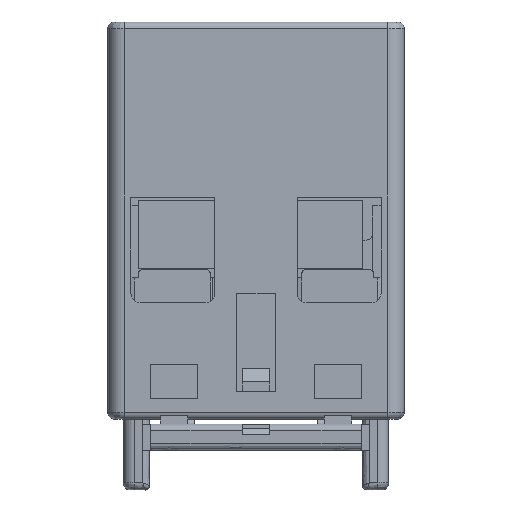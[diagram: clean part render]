
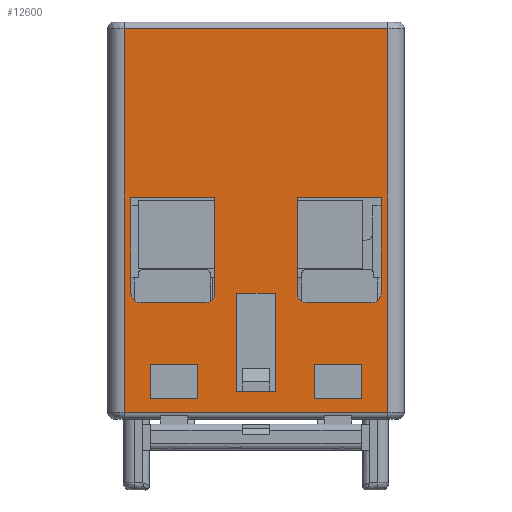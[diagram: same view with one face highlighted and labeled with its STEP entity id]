
A CAD part, top view. The second image highlights one B-rep face of the part: STEP entity #12600.
In plain terms, the highlighted free-form (B-spline) face has degree [1, 1] with [2, 2] control points.
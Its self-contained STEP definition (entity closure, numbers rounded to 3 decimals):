
#366=DIRECTION('',(0.,1.,0.));
#367=VECTOR('',#366,7.);
#368=CARTESIAN_POINT('',(3.,-19.85,-3.45));
#369=LINE('',#368,#367);
#500=DIRECTION('',(-1.,0.,0.));
#501=VECTOR('',#500,19.3);
#502=CARTESIAN_POINT('',(9.65,-28.55,-3.45));
#503=LINE('',#502,#501);
#504=DIRECTION('',(0.,1.,0.));
#505=VECTOR('',#504,28.05);
#506=CARTESIAN_POINT('',(-9.65,-28.55,
-3.45));
#507=LINE('',#506,#505);
#508=DIRECTION('',(1.,0.,0.));
#509=VECTOR('',#508,19.3);
#510=CARTESIAN_POINT('',(-9.65,-0.5,
-3.45));
#511=LINE('',#510,#509);
#512=DIRECTION('',(0.,-1.,0.));
#513=VECTOR('',#512,28.05);
#514=CARTESIAN_POINT('',(9.65,-0.5,
-3.45));
#515=LINE('',#514,#513);
#516=DIRECTION('',(0.,1.,0.));
#517=VECTOR('',#516,7.2);
#518=CARTESIAN_POINT('',(1.4,-27.05,-3.45));
#519=LINE('',#518,#517);
#520=DIRECTION('',(1.,0.,0.));
#521=VECTOR('',#520,2.8);
#522=CARTESIAN_POINT('',(-1.4,-27.05,-3.45));
#523=LINE('',#522,#521);
#524=DIRECTION('',(1.,0.,0.));
#525=VECTOR('',#524,3.5);
#526=CARTESIAN_POINT('',(4.25,-27.55,-3.45));
#527=LINE('',#526,#525);
#528=DIRECTION('',(0.,1.,0.));
#529=VECTOR('',#528,2.5);
#530=CARTESIAN_POINT('',(7.75,-27.55,-3.45));
#531=LINE('',#530,#529);
#532=DIRECTION('',(1.,0.,0.));
#533=VECTOR('',#532,3.5);
#534=CARTESIAN_POINT('',(-7.75,-27.55,-3.45));
#535=LINE('',#534,#533);
#536=DIRECTION('',(0.,1.,0.));
#537=VECTOR('',#536,2.5);
#538=CARTESIAN_POINT('',(-4.25,-27.55,-3.45));
#539=LINE('',#538,#537);
#540=CARTESIAN_POINT('',(-8.45,-19.85,-3.45));
#541=DIRECTION('',(0.,0.,1.));
#542=DIRECTION('',(-1.,0.,0.));
#543=AXIS2_PLACEMENT_3D('',#540,#541,#542);
#545=DIRECTION('',(1.,0.,0.));
#546=VECTOR('',#545,4.75);
#547=CARTESIAN_POINT('',(-8.45,-20.55,-3.45));
#548=LINE('',#547,#546);
#549=CARTESIAN_POINT('',(-3.7,-19.85,-3.45));
#550=DIRECTION('',(0.,0.,1.));
#551=DIRECTION('',(0.,-1.,0.));
#552=AXIS2_PLACEMENT_3D('',#549,#550,#551);
#554=DIRECTION('',(0.,1.,0.));
#555=VECTOR('',#554,7.);
#556=CARTESIAN_POINT('',(-3.,-19.85,-3.45));
#557=LINE('',#556,#555);
#558=DIRECTION('',(1.,0.,0.));
#559=VECTOR('',#558,4.75);
#560=CARTESIAN_POINT('',(3.7,-20.55,-3.45));
#561=LINE('',#560,#559);
#562=CARTESIAN_POINT('',(8.45,-19.85,-3.45));
#563=DIRECTION('',(0.,0.,1.));
#564=DIRECTION('',(0.,-1.,0.));
#565=AXIS2_PLACEMENT_3D('',#562,#563,#564);
#567=DIRECTION('',(0.,1.,0.));
#568=VECTOR('',#567,7.);
#569=CARTESIAN_POINT('',(9.15,-19.85,-3.45));
#570=LINE('',#569,#568);
#571=CARTESIAN_POINT('',(3.7,-19.85,-3.45));
#572=DIRECTION('',(0.,0.,1.));
#573=DIRECTION('',(-1.,0.,0.));
#574=AXIS2_PLACEMENT_3D('',#571,#572,#573);
#5681=DIRECTION('',(0.,1.,0.));
#5682=VECTOR('',#5681,7.);
#5683=CARTESIAN_POINT('',(-9.15,-19.85,-3.45));
#5684=LINE('',#5683,#5682);
#6033=DIRECTION('',(1.,0.,0.));
#6034=VECTOR('',#6033,6.15);
#6035=CARTESIAN_POINT('',(-9.15,-12.85,-3.45));
#6036=LINE('',#6035,#6034);
#7188=DIRECTION('',(1.,0.,0.));
#7189=VECTOR('',#7188,6.15);
#7190=CARTESIAN_POINT('',(3.,-12.85,-3.45));
#7191=LINE('',#7190,#7189);
#9184=DIRECTION('',(0.,1.,0.));
#9185=VECTOR('',#9184,7.2);
#9186=CARTESIAN_POINT('',(-1.4,-27.05,-3.45));
#9187=LINE('',#9186,#9185);
#9196=DIRECTION('',(1.,0.,0.));
#9197=VECTOR('',#9196,2.8);
#9198=CARTESIAN_POINT('',(-1.4,-19.85,-3.45));
#9199=LINE('',#9198,#9197);
#9224=DIRECTION('',(1.,0.,0.));
#9225=VECTOR('',#9224,3.5);
#9226=CARTESIAN_POINT('',(4.25,-25.05,-3.45));
#9227=LINE('',#9226,#9225);
#9236=DIRECTION('',(0.,1.,0.));
#9237=VECTOR('',#9236,2.5);
#9238=CARTESIAN_POINT('',(4.25,-27.55,-3.45));
#9239=LINE('',#9238,#9237);
#9268=DIRECTION('',(0.,1.,0.));
#9269=VECTOR('',#9268,2.5);
#9270=CARTESIAN_POINT('',(-7.75,-27.55,-3.45));
#9271=LINE('',#9270,#9269);
#9276=DIRECTION('',(1.,0.,0.));
#9277=VECTOR('',#9276,3.5);
#9278=CARTESIAN_POINT('',(-7.75,-25.05,-3.45));
#9279=LINE('',#9278,#9277);
#9342=CARTESIAN_POINT('',(-3.,-19.85,-3.45));
#9343=VERTEX_POINT('',#9342);
#9344=CARTESIAN_POINT('',(-3.7,-20.55,-3.45));
#9345=VERTEX_POINT('',#9344);
#9364=CARTESIAN_POINT('',(-3.,-12.85,-3.45));
#9365=VERTEX_POINT('',#9364);
#9424=CARTESIAN_POINT('',(3.,-19.85,-3.45));
#9425=VERTEX_POINT('',#9424);
#9426=CARTESIAN_POINT('',(3.,-12.85,-3.45));
#9427=VERTEX_POINT('',#9426);
#9482=CARTESIAN_POINT('',(3.7,-20.55,-3.45));
#9483=VERTEX_POINT('',#9482);
#9484=CARTESIAN_POINT('',(9.65,-28.55,
-3.45));
#9485=CARTESIAN_POINT('',(-9.65,-28.55,
-3.45));
#9486=VERTEX_POINT('',#9484);
#9487=VERTEX_POINT('',#9485);
#9488=CARTESIAN_POINT('',(-9.65,-0.5,
-3.45));
#9489=VERTEX_POINT('',#9488);
#9490=CARTESIAN_POINT('',(9.65,-0.5,
-3.45));
#9491=VERTEX_POINT('',#9490);
#9492=CARTESIAN_POINT('',(1.4,-27.05,-3.45));
#9493=CARTESIAN_POINT('',(1.4,-19.85,-3.45));
#9494=VERTEX_POINT('',#9492);
#9495=VERTEX_POINT('',#9493);
#9496=CARTESIAN_POINT('',(-1.4,-19.85,-3.45));
#9497=VERTEX_POINT('',#9496);
#9498=CARTESIAN_POINT('',(-1.4,-27.05,-3.45));
#9499=VERTEX_POINT('',#9498);
#9500=CARTESIAN_POINT('',(4.25,-25.05,-3.45));
#9501=CARTESIAN_POINT('',(7.75,-25.05,-3.45));
#9502=VERTEX_POINT('',#9500);
#9503=VERTEX_POINT('',#9501);
#9504=CARTESIAN_POINT('',(4.25,-27.55,-3.45));
#9505=VERTEX_POINT('',#9504);
#9506=CARTESIAN_POINT('',(7.75,-27.55,-3.45));
#9507=VERTEX_POINT('',#9506);
#9508=CARTESIAN_POINT('',(-7.75,-27.55,-3.45));
#9509=CARTESIAN_POINT('',(-4.25,-27.55,-3.45));
#9510=VERTEX_POINT('',#9508);
#9511=VERTEX_POINT('',#9509);
#9512=CARTESIAN_POINT('',(-4.25,-25.05,-3.45));
#9513=VERTEX_POINT('',#9512);
#9514=CARTESIAN_POINT('',(-7.75,-25.05,-3.45));
#9515=VERTEX_POINT('',#9514);
#9516=CARTESIAN_POINT('',(-9.15,-12.85,-3.45));
#9517=VERTEX_POINT('',#9516);
#9518=CARTESIAN_POINT('',(-9.15,-19.85,-3.45));
#9519=VERTEX_POINT('',#9518);
#9520=CARTESIAN_POINT('',(-8.45,-20.55,-3.45));
#9521=VERTEX_POINT('',#9520);
#9522=CARTESIAN_POINT('',(8.45,-20.55,-3.45));
#9523=VERTEX_POINT('',#9522);
#9524=CARTESIAN_POINT('',(9.15,-19.85,-3.45));
#9525=VERTEX_POINT('',#9524);
#9526=CARTESIAN_POINT('',(9.15,-12.85,-3.45));
#9527=VERTEX_POINT('',#9526);
#12531=CARTESIAN_POINT('',(10.036,0.061,-3.45));
#12532=CARTESIAN_POINT('',(10.036,-29.111,-3.45));
#12533=CARTESIAN_POINT('',(-10.036,0.061,-3.45));
#12534=CARTESIAN_POINT('',(-10.036,-29.111,-3.45));
#12535=B_SPLINE_SURFACE_WITH_KNOTS('',1,1,((#12531,#12532),(#12533,#12534)),
.UNSPECIFIED.,.F.,.F.,.F.,(2,2),(2,2),(-10.036,10.036),(
-14.586,14.586),.UNSPECIFIED.);
#12537=ORIENTED_EDGE('',*,*,#12536,.T.);
#12539=ORIENTED_EDGE('',*,*,#12538,.T.);
#12541=ORIENTED_EDGE('',*,*,#12540,.T.);
#12543=ORIENTED_EDGE('',*,*,#12542,.T.);
#12544=EDGE_LOOP('',(#12537,#12539,#12541,#12543));
#12545=FACE_OUTER_BOUND('',#12544,.F.);
#12547=ORIENTED_EDGE('',*,*,#12546,.T.);
#12549=ORIENTED_EDGE('',*,*,#12548,.F.);
#12551=ORIENTED_EDGE('',*,*,#12550,.F.);
#12553=ORIENTED_EDGE('',*,*,#12552,.T.);
#12554=EDGE_LOOP('',(#12547,#12549,#12551,#12553));
#12555=FACE_BOUND('',#12554,.F.);
#12557=ORIENTED_EDGE('',*,*,#12556,.F.);
#12559=ORIENTED_EDGE('',*,*,#12558,.F.);
#12561=ORIENTED_EDGE('',*,*,#12560,.T.);
#12563=ORIENTED_EDGE('',*,*,#12562,.T.);
#12564=EDGE_LOOP('',(#12557,#12559,#12561,#12563));
#12565=FACE_BOUND('',#12564,.F.);
#12567=ORIENTED_EDGE('',*,*,#12566,.T.);
#12569=ORIENTED_EDGE('',*,*,#12568,.T.);
#12571=ORIENTED_EDGE('',*,*,#12570,.F.);
#12573=ORIENTED_EDGE('',*,*,#12572,.F.);
#12574=EDGE_LOOP('',(#12567,#12569,#12571,#12573));
#12575=FACE_BOUND('',#12574,.F.);
#12577=ORIENTED_EDGE('',*,*,#12576,.F.);
#12579=ORIENTED_EDGE('',*,*,#12578,.F.);
#12581=ORIENTED_EDGE('',*,*,#12580,.T.);
#12583=ORIENTED_EDGE('',*,*,#12582,.T.);
#12584=ORIENTED_EDGE('',*,*,#12164,.T.);
#12585=ORIENTED_EDGE('',*,*,#12208,.T.);
#12586=EDGE_LOOP('',(#12577,#12579,#12581,#12583,#12584,#12585));
#12587=FACE_BOUND('',#12586,.F.);
#12589=ORIENTED_EDGE('',*,*,#12588,.T.);
#12591=ORIENTED_EDGE('',*,*,#12590,.T.);
#12593=ORIENTED_EDGE('',*,*,#12592,.T.);
#12595=ORIENTED_EDGE('',*,*,#12594,.F.);
#12596=ORIENTED_EDGE('',*,*,#12341,.F.);
#12597=ORIENTED_EDGE('',*,*,#12520,.T.);
#12598=EDGE_LOOP('',(#12589,#12591,#12593,#12595,#12596,#12597));
#12599=FACE_BOUND('',#12598,.F.);
#12600=ADVANCED_FACE('',(#12545,#12555,#12565,#12575,#12587,#12599),#12535,.T.);
#544=CIRCLE('',#543,0.7);
#553=CIRCLE('',#552,0.7);
#566=CIRCLE('',#565,0.7);
#575=CIRCLE('',#574,0.7);
#12164=EDGE_CURVE('',#9345,#9343,#553,.T.);
#12208=EDGE_CURVE('',#9343,#9365,#557,.T.);
#12341=EDGE_CURVE('',#9425,#9427,#369,.T.);
#12520=EDGE_CURVE('',#9425,#9483,#575,.T.);
#12536=EDGE_CURVE('',#9486,#9487,#503,.T.);
#12538=EDGE_CURVE('',#9487,#9489,#507,.T.);
#12540=EDGE_CURVE('',#9489,#9491,#511,.T.);
#12542=EDGE_CURVE('',#9491,#9486,#515,.T.);
#12546=EDGE_CURVE('',#9494,#9495,#519,.T.);
#12548=EDGE_CURVE('',#9497,#9495,#9199,.T.);
#12550=EDGE_CURVE('',#9499,#9497,#9187,.T.);
#12552=EDGE_CURVE('',#9499,#9494,#523,.T.);
#12556=EDGE_CURVE('',#9502,#9503,#9227,.T.);
#12558=EDGE_CURVE('',#9505,#9502,#9239,.T.);
#12560=EDGE_CURVE('',#9505,#9507,#527,.T.);
#12562=EDGE_CURVE('',#9507,#9503,#531,.T.);
#12566=EDGE_CURVE('',#9510,#9511,#535,.T.);
#12568=EDGE_CURVE('',#9511,#9513,#539,.T.);
#12570=EDGE_CURVE('',#9515,#9513,#9279,.T.);
#12572=EDGE_CURVE('',#9510,#9515,#9271,.T.);
#12576=EDGE_CURVE('',#9517,#9365,#6036,.T.);
#12578=EDGE_CURVE('',#9519,#9517,#5684,.T.);
#12580=EDGE_CURVE('',#9519,#9521,#544,.T.);
#12582=EDGE_CURVE('',#9521,#9345,#548,.T.);
#12588=EDGE_CURVE('',#9483,#9523,#561,.T.);
#12590=EDGE_CURVE('',#9523,#9525,#566,.T.);
#12592=EDGE_CURVE('',#9525,#9527,#570,.T.);
#12594=EDGE_CURVE('',#9427,#9527,#7191,.T.);
